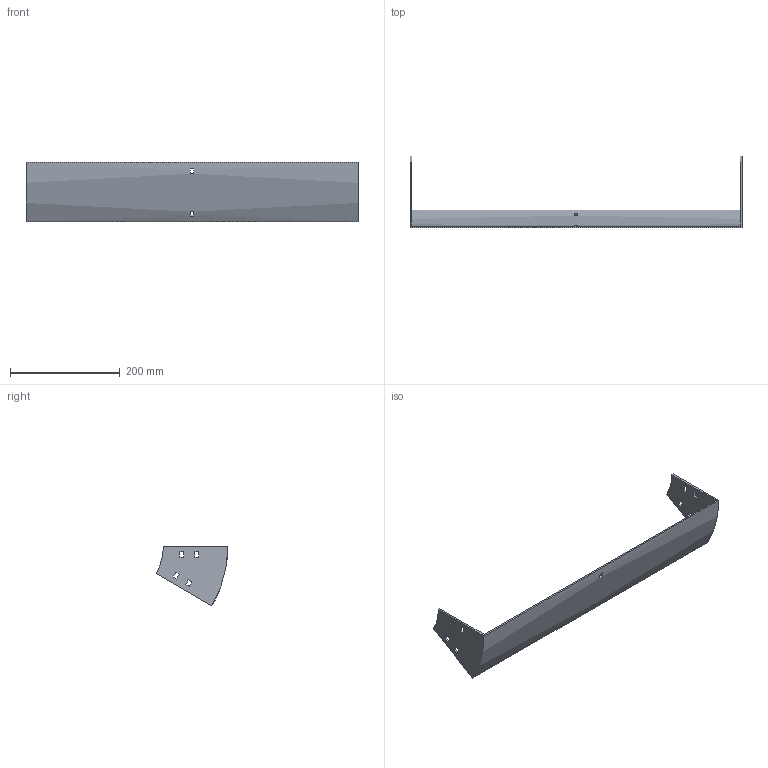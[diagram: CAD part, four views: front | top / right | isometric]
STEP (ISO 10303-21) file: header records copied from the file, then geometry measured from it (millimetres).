
FILE_DESCRIPTION (( 'STEP AP214' ), '1' );
FILE_NAME ('32B1J600.step', '2025-02-21T09:43:12', ( '' ), ( '' ), 'SwSTEP 2.0', 'SolidWorks 2023', '' );
FILE_SCHEMA (( 'AUTOMOTIVE_DESIGN' ));
Length unit declared in the file: millimetre
Products named in the file (1): 32B1J600
Bounding box: 604 x 130.9 x 108.75 mm (x, y, z)
Volume: 302039.9 mm3; surface area: 179960.8 mm2
Topology: 1 solids, 1 shells, 50 faces, 144 edges, 96 vertices
Faces by surface type: plane 46, cylinder 4
Entity records: 1687 total; most frequent: CARTESIAN_POINT 291, ORIENTED_EDGE 288, DIRECTION 262, EDGE_CURVE 144, LINE 128, VECTOR 128, VERTEX_POINT 96, EDGE_LOOP 70
